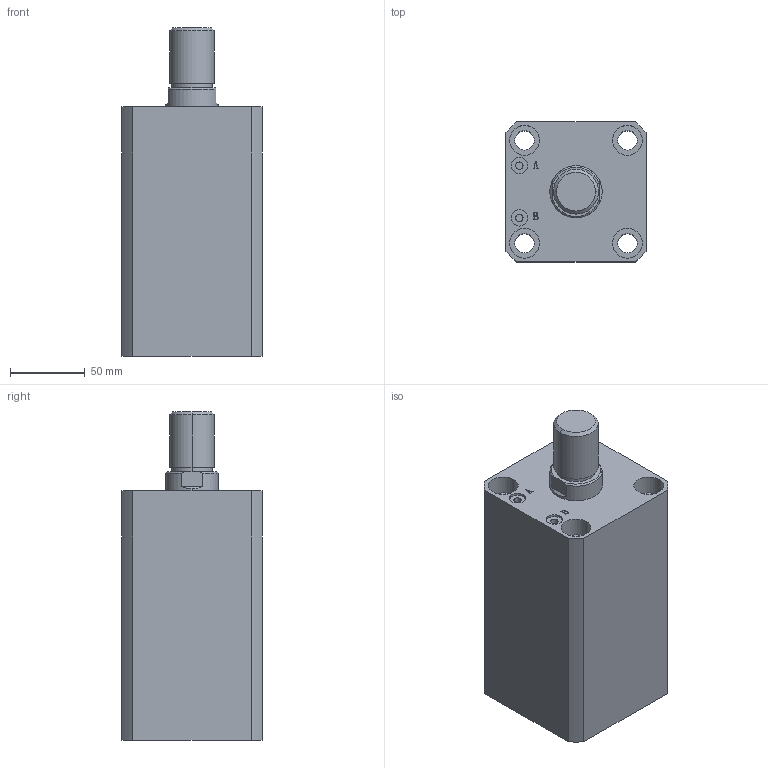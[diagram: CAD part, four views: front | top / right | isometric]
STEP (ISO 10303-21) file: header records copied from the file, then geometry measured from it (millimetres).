
FILE_DESCRIPTION (( 'STEP AP203' ), '1' );
FILE_NAME ('HTB-SDMA63-100W.STEP', '2019-10-08T01:18:03', ( '微软用户' ), ( '微软中国' ), 'SwSTEP 2.0', 'SolidWorks 2012', '' );
FILE_SCHEMA (( 'CONFIG_CONTROL_DESIGN' ));
Length unit declared in the file: millimetre
Products named in the file (3): HTB-SDMA63-100W; HTB-SDMA63-100W活塞杆; HTB-SDMA63-100掛极
Assembly tree (2 placements, depth 2):
  HTB-SDMA63-100W
    HTB-SDMA63-100掛极
    HTB-SDMA63-100W活塞杆
Bounding box: 94 x 94 x 220 mm (x, y, z)
Volume: 1174466.8 mm3; surface area: 167353.3 mm2
Topology: 2 solids, 2 shells, 141 faces, 337 edges, 222 vertices
Faces by surface type: plane 67, cylinder 48, bspline 16, torus 6, cone 4
Entity records: 5176 total; most frequent: CARTESIAN_POINT 1593, ORIENTED_EDGE 674, DIRECTION 669, EDGE_CURVE 337, AXIS2_PLACEMENT_3D 242, VERTEX_POINT 222, LINE 185, VECTOR 185
